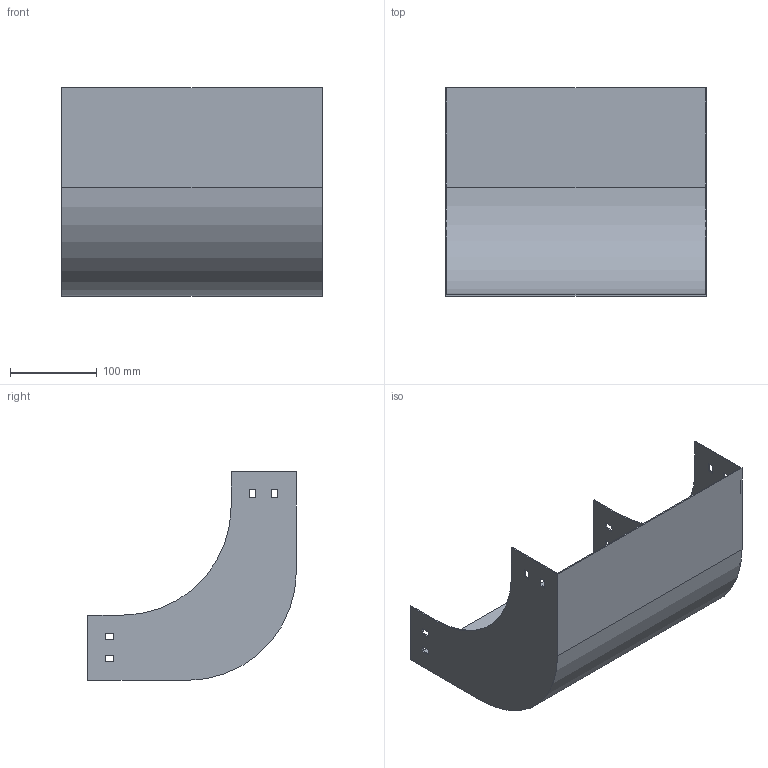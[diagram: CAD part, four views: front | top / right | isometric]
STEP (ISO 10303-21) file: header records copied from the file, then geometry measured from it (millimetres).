
FILE_DESCRIPTION (( 'STEP AP214' ), '1' );
FILE_NAME ('S9_307.step', '2025-07-16T09:28:16', ( '' ), ( '' ), 'SwSTEP 2.0', 'SolidWorks 2023', '' );
FILE_SCHEMA (( 'AUTOMOTIVE_DESIGN' ));
Length unit declared in the file: millimetre
Products named in the file (1): S9_307
Bounding box: 300 x 240 x 240 mm (x, y, z)
Volume: 279698.9 mm3; surface area: 375513.4 mm2
Topology: 1 solids, 1 shells, 50 faces, 144 edges, 96 vertices
Faces by surface type: plane 46, cylinder 4
Entity records: 1671 total; most frequent: CARTESIAN_POINT 291, ORIENTED_EDGE 288, DIRECTION 254, EDGE_CURVE 144, LINE 136, VECTOR 136, VERTEX_POINT 96, EDGE_LOOP 66
